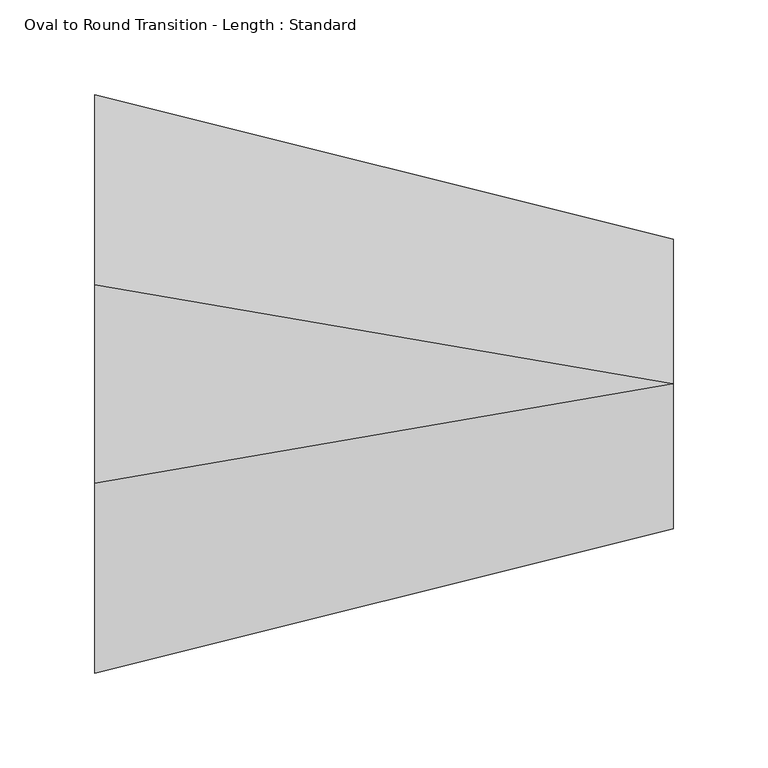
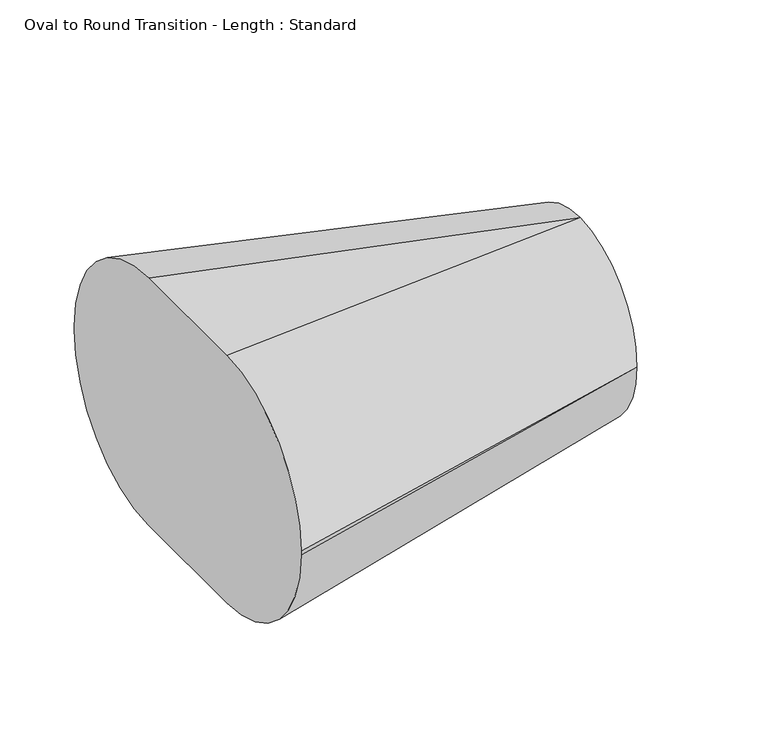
"""IFC4 building model written with IfcOpenShell, lengths in millimetres: duct fitting geometry, Oval to Round Transition - Length : Standard."""

from ifc_helpers import new_model, si_unit, frame, origin, place, context, project, spatial, circle_curve, source, transform, mapped, element, save
from ifc_brep_helpers import plane_surface, spline_surface, advanced_brep


def oval_to_round_transition_length_standard_34fdf921(model_context):
    return source(origin(), model_context, "Body", "AdvancedBrep", [
        advanced_brep(
        [(304.8, 0.0, 76.2), (304.8, -76.2, 0.0), (304.8, 0.0, -76.2), (304.8, 76.2, 0.0), (0.0, -52.3875, 101.6), (0.0, 52.3875, 101.6), (0.0, 152.4, 1.5875), (0.0, 152.4, -1.5875), (0.0, 52.3875, -101.6), (0.0, -52.3875, -101.6), (0.0, -152.4, -1.5875), (0.0, -152.4, 1.5875)],
        [
            (0, 1, circle_curve(frame((304.8, 0.0, 0.0), z_axis=(1.0, 0.0, 0.0), x_axis=(0.0, 1.0, 0.0)), 76.2)),
            (1, 2, circle_curve(frame((304.8, 0.0, 0.0), z_axis=(1.0, 0.0, 0.0), x_axis=(0.0, 1.0, 0.0)), 76.2)),
            (2, 3, circle_curve(frame((304.8, 0.0, 0.0), z_axis=(1.0, 0.0, 0.0), x_axis=(0.0, 1.0, 0.0)), 76.2)),
            (3, 0, circle_curve(frame((304.8, 0.0, 0.0), z_axis=(1.0, 0.0, 0.0), x_axis=(0.0, 1.0, 0.0)), 76.2)),
            (4, 5),
            (5, 6, circle_curve(frame((0.0, 52.3875, 1.5875), z_axis=(-1.0, 0.0, 0.0), x_axis=(0.0, 1.0, 0.0)), 100.0125)),
            (6, 7),
            (7, 8, circle_curve(frame((0.0, 52.3875, -1.5875), z_axis=(-1.0, 0.0, 0.0), x_axis=(0.0, 1.0, 0.0)), 100.0125)),
            (8, 9),
            (9, 10, circle_curve(frame((0.0, -52.3875, -1.5875), z_axis=(-1.0, 0.0, 0.0), x_axis=(0.0, 1.0, 0.0)), 100.0125)),
            (10, 11),
            (11, 4, circle_curve(frame((0.0, -52.3875, 1.5875), z_axis=(-1.0, 0.0, 0.0), x_axis=(0.0, 1.0, 0.0)), 100.0125)),
            (11, 1),
            (0, 4),
            (10, 1),
            (9, 2),
            (8, 2),
            (7, 3),
            (6, 3),
            (5, 0),
        ],
        [
            plane_surface(frame((304.8, 0.0, 0.0), z_axis=(1.0, 0.0, 0.0), x_axis=(0.0, -1.0, 0.0))),
            plane_surface(frame((0.0, 0.0, 0.0), z_axis=(-1.0, 0.0, 0.0), x_axis=(0.0, -1.0, 0.0))),
            spline_surface(2, 1, [[(0.0, -52.3875, 101.6), (304.8, 0.0, 76.2)], [(0.0, -152.39999999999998, 101.6), (304.8, -76.2, 76.2)], [(0.0, -152.4, 1.5875), (304.8, -76.2, 0.0)]], [3, 3], [2, 2], [0.0, 1.0], [0.0, 1.0], weights=[[1.0, 1.0], [0.7071067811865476, 0.7071067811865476], [1.0, 1.0]]),
            plane_surface(frame((0.0, -152.4, 0.0), z_axis=(0.24253562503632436, -0.9701425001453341, 0.0), x_axis=(0.0, 0.0, -1.0))),
            spline_surface(2, 1, [[(0.0, -152.4, -1.5875), (304.8, -76.2, 0.0)], [(0.0, -152.40000000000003, -101.60000000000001), (304.8, -76.20000000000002, -76.2)], [(0.0, -52.3875, -101.6), (304.8, 0.0, -76.2)]], [3, 3], [2, 2], [0.0, 1.0], [0.0, 1.0], weights=[[1.0, 1.0], [0.7071067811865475, 0.7071067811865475], [1.0, 1.0]]),
            plane_surface(frame((0.0, 0.0, -101.6), z_axis=(0.08304547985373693, 0.0, -0.9965457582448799), x_axis=(0.0, 1.0, 0.0))),
            spline_surface(2, 1, [[(0.0, 52.3875, -101.6), (304.8, 0.0, -76.2)], [(0.0, 152.39999999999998, -101.6), (304.8, 76.2, -76.2)], [(0.0, 152.4, -1.5875), (304.8, 76.2, 0.0)]], [3, 3], [2, 2], [0.0, 1.0], [0.0, 1.0], weights=[[1.0, 1.0], [0.7071067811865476, 0.7071067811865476], [1.0, 1.0]]),
            plane_surface(frame((0.0, 152.4, 0.0), z_axis=(0.24253562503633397, 0.9701425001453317, 0.0), x_axis=(0.0, 0.0, 1.0))),
            spline_surface(2, 1, [[(0.0, 152.4, 1.5875), (304.8, 76.2, 0.0)], [(0.0, 152.40000000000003, 101.60000000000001), (304.8, 76.20000000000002, 76.2)], [(0.0, 52.3875, 101.6), (304.8, 0.0, 76.2)]], [3, 3], [2, 2], [0.0, 1.0], [0.0, 1.0], weights=[[1.0, 1.0], [0.7071067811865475, 0.7071067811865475], [1.0, 1.0]]),
            plane_surface(frame((0.0, 0.0, 101.6), z_axis=(0.08304547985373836, 0.0, 0.9965457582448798), x_axis=(0.0, -1.0, 0.0))),
        ],
        [
            (0, [[1, 2, 3, 4]]),
            (1, [[5, 6, 7, 8, 9, 10, 11, 12]]),
            (2, [[-12, 13, -1, 14]]),
            (3, [[-11, 15, -13]]),
            (4, [[-10, 16, -2, -15]]),
            (5, [[-9, 17, -16]]),
            (6, [[-8, 18, -3, -17]]),
            (7, [[-7, 19, -18]]),
            (8, [[-6, 20, -4, -19]]),
            (9, [[-5, -14, -20]]),
        ],
    ),
    ])


if __name__ == "__main__":
    model = new_model("IFC4")
    model_context = context("Model", 3, world=origin())
    ifc_project = project(units=[si_unit("LENGTHUNIT", "METRE", prefix="MILLI")], contexts=[model_context])
    site = spatial("IfcSite", under=ifc_project)
    building = spatial("IfcBuilding", under=site)
    placement = place(None, origin())
    oval_to_round_transition_length_standard_shape = oval_to_round_transition_length_standard_34fdf921(model_context)
    element("IfcDuctFitting", 1, ObjectType="Oval to Round Transition - Length : Standard", at=placement, inside=building, context=model_context, shape_type="MappedRepresentation", body=[
        mapped(oval_to_round_transition_length_standard_shape, transform((0.0, 0.0, 0.0), x_axis=(1.0, 0.0, 0.0), y_axis=(0.0, 1.0, 0.0), z_axis=(0.0, 0.0, 1.0))),
    ])
    save(model, "model.ifc")
